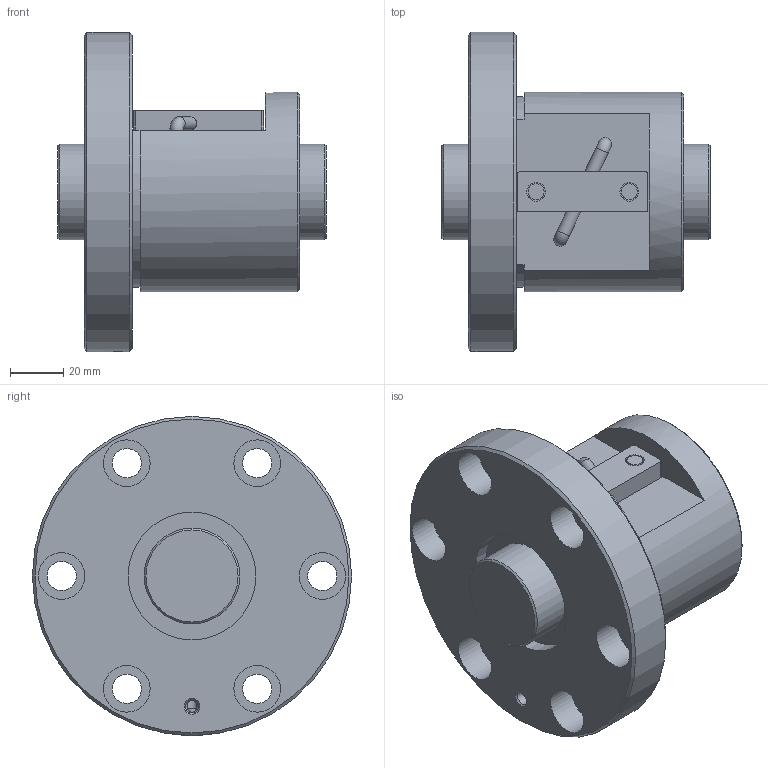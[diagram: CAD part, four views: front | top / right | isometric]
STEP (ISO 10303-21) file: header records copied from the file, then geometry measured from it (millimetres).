
FILE_DESCRIPTION(/* description */ ('STEP AP203'),/* implementation_level */ '2;1');
FILE_NAME(/* name */ 'BNF3610V-2.5RRG1+101LC0_000_rev',/* time_stamp */ '2024-08-06T08:39:06+02:00',/* author */ ('License CC BY-ND 4.0'),/* organization */ ('CADENAS'),/* preprocessor_version */ 'ST-DEVELOPER v19.3',/* originating_system */ 'PARTsolutions',/* authorisation */ ' ');
FILE_SCHEMA (('CONFIG_CONTROL_DESIGN'));
Length unit declared in the file: millimetre
Products named in the file (3): BNF3610V-2.5RRG1+101LC0_000_rev; BNF 3610-2.5RR000 Shaft; BNF 3610-2.5RR Nut
Assembly tree (2 placements, depth 2):
  BNF3610V-2.5RRG1+101LC0_000_rev
    BNF 3610-2.5RR000 Shaft
    BNF 3610-2.5RR Nut
Bounding box: 101 x 120 x 120 mm (x, y, z)
Volume: 448505.4 mm3; surface area: 71903.7 mm2
Topology: 2 solids, 2 shells, 69 faces, 148 edges, 96 vertices
Faces by surface type: cylinder 33, plane 27, cone 7, torus 2
Full cylindrical faces by diameter (mm): 4.5 x2, 4.917 x1, 4.998 x2, 6 x2, 7 x2, 11 x6, 17.5 x6, 36 x2, 48 x2, 75 x1, 120 x1
Entity records: 1755 total; most frequent: DIRECTION 312, CARTESIAN_POINT 296, ORIENTED_EDGE 200, AXIS2_PLACEMENT_3D 144, EDGE_LOOP 140, FACE_BOUND 140, EDGE_CURVE 100, VERTEX_POINT 86
